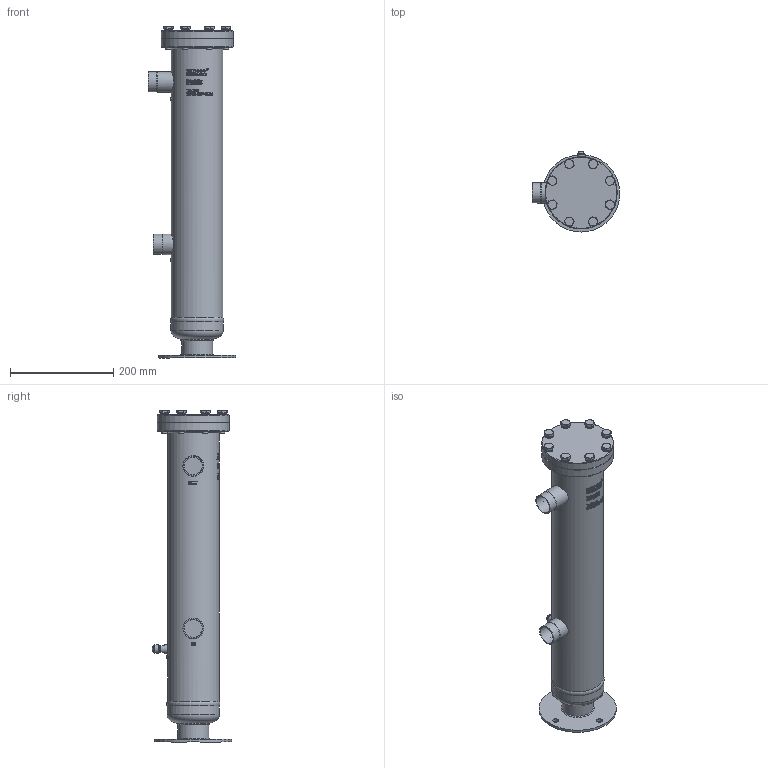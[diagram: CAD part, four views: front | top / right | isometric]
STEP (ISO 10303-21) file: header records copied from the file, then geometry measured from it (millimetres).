
FILE_DESCRIPTION(/* description */ (''),/* implementation_level */ '2;1');
FILE_NAME(/* name */ 'P:\OS\BOS2-35F-CDM\BOS2-35F-CDM.stp',/* time_stamp */ '2017-10-04T07:49:00+02:00',/* author */ ('neufeld'),/* organization */ (''),/* preprocessor_version */ 'ST-DEVELOPER v16.1',/* originating_system */ 'Autodesk Inventor 2016',/* authorisation */ '');
FILE_SCHEMA (('AUTOMOTIVE_DESIGN { 1 0 10303 214 3 1 1 }'));
Products named in the file (2): BOS2-35F-CDM; BOS2-35F-CDM_1
Assembly tree (1 placements, depth 2):
  BOS2-35F-CDM_1
    BOS2-35F-CDM
Bounding box: 170 x 155 x 643.79 mm (x, y, z)
Volume: 5183895.9 mm3; surface area: 298645.5 mm2
Topology: 1 solids, 1 shells, 1444 faces, 3865 edges, 2551 vertices
Faces by surface type: plane 727, bspline 460, cylinder 186, cone 65, torus 5, sphere 1
Full cylindrical faces by diameter (mm): 5 x1, 7.2 x1, 10 x16, 10.5 x8, 11 x4, 12.9 x1, 13.5 x1, 15.6 x8, 15.7 x1, 16 x1, 35.2 x2, 39 x2, 40 x2, 60.3 x1, 100 x1, 101.6 x1, 135 x1, 140 x2, 150 x1
Entity records: 54225 total; most frequent: CARTESIAN_POINT 21051, ORIENTED_EDGE 7492, DIRECTION 5757, EDGE_CURVE 3746, VERTEX_POINT 2509, AXIS2_PLACEMENT_3D 2043, EDGE_LOOP 1689, LINE 1671
